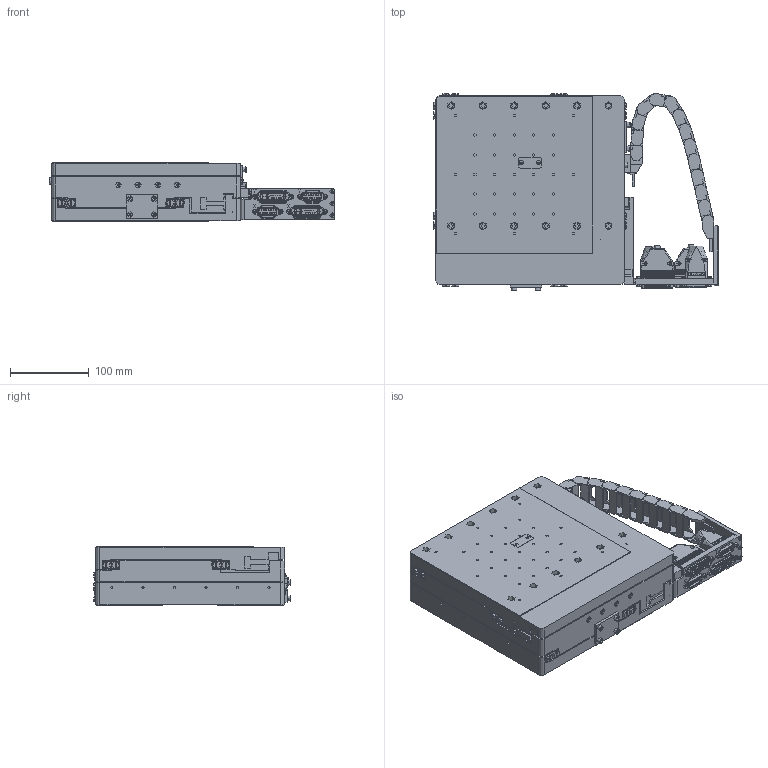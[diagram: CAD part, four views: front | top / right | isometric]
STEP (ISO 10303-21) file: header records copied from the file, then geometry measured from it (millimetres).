
FILE_DESCRIPTION((''),'2;1');
FILE_NAME('8MTL120XY-LEn1-100 SB.stp','2018-04-05T15:12:14',(''),(''),'Mechanical Desktop 2011','Mechanical Desktop 2011',', , ');
FILE_SCHEMA(('CONFIG_CONTROL_DESIGN'));
Length unit declared in the file: millimetre
Products named in the file (1): Product
Bounding box: 362.7 x 250.6 x 75 mm (x, y, z)
Volume: 4400095.7 mm3; surface area: 339398.1 mm2
Topology: 1 solids, 49 shells, 6256 faces, 16530 edges, 10628 vertices
Faces by surface type: plane 3667, bspline 1129, cylinder 1061, cone 265, torus 134
Entity records: 246989 total; most frequent: CARTESIAN_POINT 95107, ORIENTED_EDGE 32870, DIRECTION 30192, EDGE_CURVE 16435, VERTEX_POINT 10628, VECTOR 10468, LINE 10468, AXIS2_PLACEMENT_3D 9862
